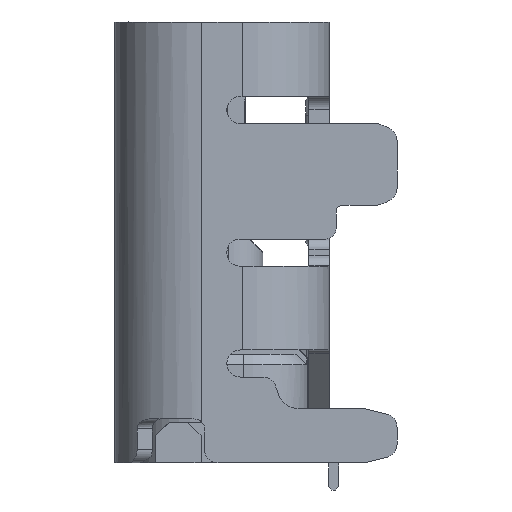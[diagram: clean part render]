
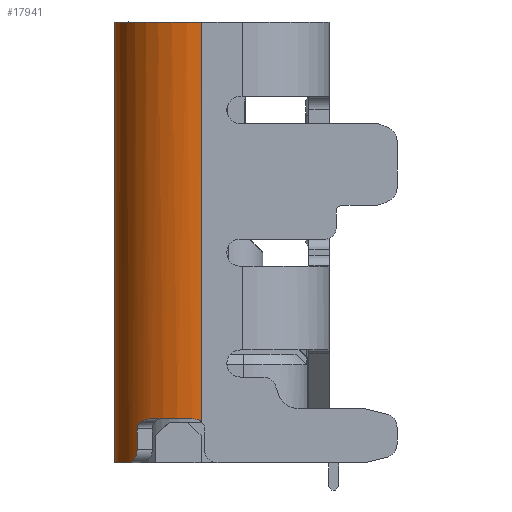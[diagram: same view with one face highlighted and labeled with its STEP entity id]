
A CAD part, left-side view. The second image highlights one B-rep face of the part: STEP entity #17941.
In plain terms, the highlighted cylindrical face has radius 1.28 mm (diameter 2.56 mm), a partial arc.
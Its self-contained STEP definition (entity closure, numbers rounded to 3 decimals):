
#4134=CARTESIAN_POINT('',(-3.19,0.3,4.8));
#4135=DIRECTION('',(0.,0.,-1.));
#4136=DIRECTION('',(-1.,0.,0.));
#4137=AXIS2_PLACEMENT_3D('',#4134,#4135,#4136);
#4278=DIRECTION('',(0.,0.,1.));
#4279=VECTOR('',#4278,6.5);
#4280=CARTESIAN_POINT('',(-3.19,1.58,-1.7));
#4281=LINE('',#4280,#4279);
#4282=DIRECTION('',(0.,0.,-1.));
#4283=VECTOR('',#4282,5.898);
#4284=CARTESIAN_POINT('',(-4.47,0.3,4.8));
#4285=LINE('',#4284,#4283);
#4286=CARTESIAN_POINT('',(-4.47,0.3,-1.098));
#4287=CARTESIAN_POINT('',(-4.47,0.307,-1.092));
#4288=CARTESIAN_POINT('',(-4.47,0.321,
-1.082));
#4289=CARTESIAN_POINT('',(-4.469,0.347,
-1.069));
#4290=CARTESIAN_POINT('',(-4.468,0.377,
-1.058));
#4291=CARTESIAN_POINT('',(-4.465,0.409,
-1.052));
#4292=CARTESIAN_POINT('',(-4.463,0.432,-1.05));
#4293=CARTESIAN_POINT('',(-4.462,0.444,-1.05));
#4295=CARTESIAN_POINT('',(-4.222,1.058,-1.05));
#4296=CARTESIAN_POINT('',(-4.212,1.07,-1.05));
#4297=CARTESIAN_POINT('',(-4.194,1.095,
-1.052));
#4298=CARTESIAN_POINT('',(-4.166,1.128,
-1.059));
#4299=CARTESIAN_POINT('',(-4.141,1.157,
-1.07));
#4300=CARTESIAN_POINT('',(-4.12,1.18,
-1.082));
#4301=CARTESIAN_POINT('',(-4.101,1.199,
-1.096));
#4302=CARTESIAN_POINT('',(-4.085,1.215,
-1.111));
#4303=CARTESIAN_POINT('',(-4.071,1.228,
-1.126));
#4304=CARTESIAN_POINT('',(-4.061,1.238,
-1.141));
#4305=CARTESIAN_POINT('',(-4.053,1.245,
-1.156));
#4306=CARTESIAN_POINT('',(-4.048,1.25,
-1.171));
#4307=CARTESIAN_POINT('',(-4.045,1.253,
-1.186));
#4308=CARTESIAN_POINT('',(-4.044,1.253,
-1.195));
#4309=CARTESIAN_POINT('',(-4.044,1.253,-1.2));
#4311=DIRECTION('',(0.,0.,-1.));
#4312=VECTOR('',#4311,0.3);
#4313=CARTESIAN_POINT('',(-4.044,1.253,-1.2));
#4314=LINE('',#4313,#4312);
#4315=CARTESIAN_POINT('',(-3.885,1.375,-1.7));
#4316=CARTESIAN_POINT('',(-3.899,1.366,-1.7));
#4317=CARTESIAN_POINT('',(-3.928,1.346,
-1.695));
#4318=CARTESIAN_POINT('',(-3.968,1.317,
-1.676));
#4319=CARTESIAN_POINT('',(-4.001,1.291,
-1.643));
#4320=CARTESIAN_POINT('',(-4.026,1.27,
-1.601));
#4321=CARTESIAN_POINT('',(-4.041,1.256,
-1.552));
#4322=CARTESIAN_POINT('',(-4.044,1.253,
-1.517));
#4323=CARTESIAN_POINT('',(-4.044,1.253,-1.5));
#4345=CARTESIAN_POINT('',(-3.19,0.3,-1.7));
#4346=DIRECTION('',(0.,0.,1.));
#4347=DIRECTION('',(0.,1.,0.));
#4348=AXIS2_PLACEMENT_3D('',#4345,#4346,#4347);
#4371=CARTESIAN_POINT('',(-3.19,0.3,-1.05));
#4372=DIRECTION('',(0.,0.,1.));
#4373=DIRECTION('',(-0.806,0.592,0.));
#4374=AXIS2_PLACEMENT_3D('',#4371,#4372,#4373);
#10932=CARTESIAN_POINT('',(-4.47,0.3,-1.098));
#10933=VERTEX_POINT('',#10932);
#10935=CARTESIAN_POINT('',(-4.462,0.444,-1.05));
#10936=VERTEX_POINT('',#10935);
#10984=CARTESIAN_POINT('',(-3.19,1.58,4.8));
#10985=VERTEX_POINT('',#10984);
#10986=CARTESIAN_POINT('',(-3.19,1.58,-1.7));
#10987=VERTEX_POINT('',#10986);
#11341=CARTESIAN_POINT('',(-4.47,0.3,4.8));
#11342=VERTEX_POINT('',#11341);
#11383=VERTEX_POINT('',#4315);
#11384=VERTEX_POINT('',#4323);
#11385=CARTESIAN_POINT('',(-4.222,1.058,-1.05));
#11386=VERTEX_POINT('',#11385);
#11387=VERTEX_POINT('',#4309);
#17920=CARTESIAN_POINT('',(-3.19,0.3,-1.7));
#17921=DIRECTION('',(0.,0.,1.));
#17922=DIRECTION('',(1.,0.,0.));
#17923=AXIS2_PLACEMENT_3D('',#17920,#17921,#17922);
#17924=CYLINDRICAL_SURFACE('',#17923,1.28);
#17926=ORIENTED_EDGE('',*,*,#17925,.F.);
#17928=ORIENTED_EDGE('',*,*,#17927,.F.);
#17929=ORIENTED_EDGE('',*,*,#16192,.T.);
#17930=ORIENTED_EDGE('',*,*,#17814,.F.);
#17931=ORIENTED_EDGE('',*,*,#17854,.T.);
#17932=ORIENTED_EDGE('',*,*,#16042,.T.);
#17934=ORIENTED_EDGE('',*,*,#17933,.F.);
#17936=ORIENTED_EDGE('',*,*,#17935,.T.);
#17938=ORIENTED_EDGE('',*,*,#17937,.T.);
#17939=EDGE_LOOP('',(#17926,#17928,#17929,#17930,#17931,#17932,#17934,#17936,
#17938));
#17940=FACE_OUTER_BOUND('',#17939,.F.);
#17941=ADVANCED_FACE('',(#17940),#17924,.T.);
#4138=CIRCLE('',#4137,1.28);
#4294=B_SPLINE_CURVE_WITH_KNOTS('',3,(#4286,#4287,#4288,#4289,#4290,#4291,#4292,
#4293),.UNSPECIFIED.,.F.,.F.,(4,1,1,1,1,4),(0.,0.2,0.4,0.6,0.8,1.),
.UNSPECIFIED.);
#4310=B_SPLINE_CURVE_WITH_KNOTS('',3,(#4295,#4296,#4297,#4298,#4299,#4300,#4301,
#4302,#4303,#4304,#4305,#4306,#4307,#4308,#4309),.UNSPECIFIED.,.F.,.F.,(4,1,1,1,
1,1,1,1,1,1,1,1,4),(0.,0.083,0.167,0.25,
0.333,0.417,0.5,0.583,0.667,
0.75,0.833,0.917,1.),.UNSPECIFIED.);
#4324=B_SPLINE_CURVE_WITH_KNOTS('',3,(#4315,#4316,#4317,#4318,#4319,#4320,#4321,
#4322,#4323),.UNSPECIFIED.,.F.,.F.,(4,1,1,1,1,1,4),(0.,0.167,
0.333,0.5,0.667,0.833,1.),
.UNSPECIFIED.);
#4349=CIRCLE('',#4348,1.28);
#4375=CIRCLE('',#4374,1.28);
#16042=EDGE_CURVE('',#10933,#10936,#4294,.T.);
#16192=EDGE_CURVE('',#10987,#10985,#4281,.T.);
#17814=EDGE_CURVE('',#11342,#10985,#4138,.T.);
#17854=EDGE_CURVE('',#11342,#10933,#4285,.T.);
#17925=EDGE_CURVE('',#11383,#11384,#4324,.T.);
#17927=EDGE_CURVE('',#10987,#11383,#4349,.T.);
#17933=EDGE_CURVE('',#11386,#10936,#4375,.T.);
#17935=EDGE_CURVE('',#11386,#11387,#4310,.T.);
#17937=EDGE_CURVE('',#11387,#11384,#4314,.T.);
